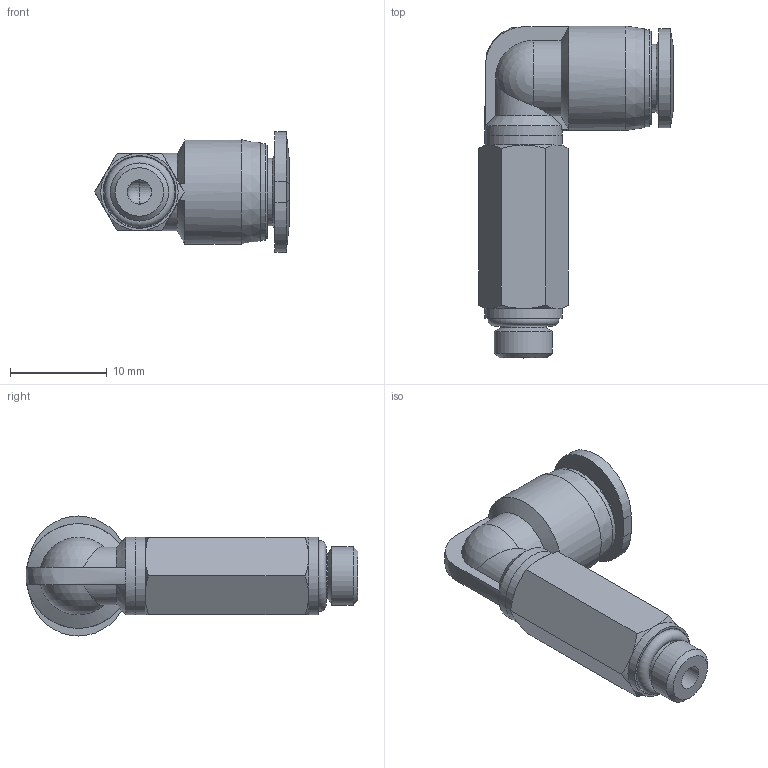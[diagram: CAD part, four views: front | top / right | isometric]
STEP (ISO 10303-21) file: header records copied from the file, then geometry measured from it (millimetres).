
FILE_DESCRIPTION((''),'2;1');
FILE_NAME('D:\INVENTOR\[New Inventor]\CDC Products 3D Ass''y\Compact One-Touch Fittings\Metric\PLL-C\PLL06-M6C.stp','2010-10-05T17:31:59',('Microsoft'),(''),'Autodesk Inventor 2008','Autodesk Inventor 2008','');
FILE_SCHEMA(('AUTOMOTIVE_DESIGN { 1 0 10303 214 1 1 1 1 }'));
Length unit declared in the file: millimetre
Products named in the file (1): PLL06-M6C
Bounding box: 20.1 x 34.3 x 12.4 mm (x, y, z)
Volume: 2024.2 mm3; surface area: 2130.7 mm2
Topology: 2 solids, 2 shells, 75 faces, 173 edges, 103 vertices
Faces by surface type: plane 23, cone 22, cylinder 19, bspline 5, torus 3, sphere 3
Full cylindrical faces by diameter (mm): 2.5 x2, 4.7 x2, 6 x1, 6.2 x2, 7 x1, 8 x3, 10 x1, 10.8 x1
Entity records: 2261 total; most frequent: CARTESIAN_POINT 757, DIRECTION 312, ORIENTED_EDGE 282, AXIS2_PLACEMENT_3D 143, EDGE_CURVE 141, EDGE_LOOP 108, VERTEX_POINT 97, FACE_OUTER_BOUND 75
